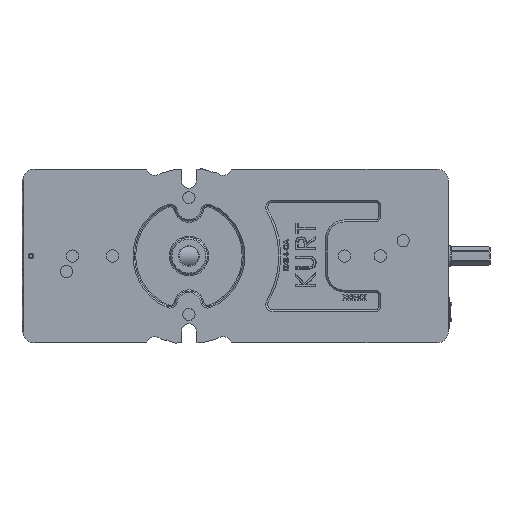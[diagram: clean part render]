
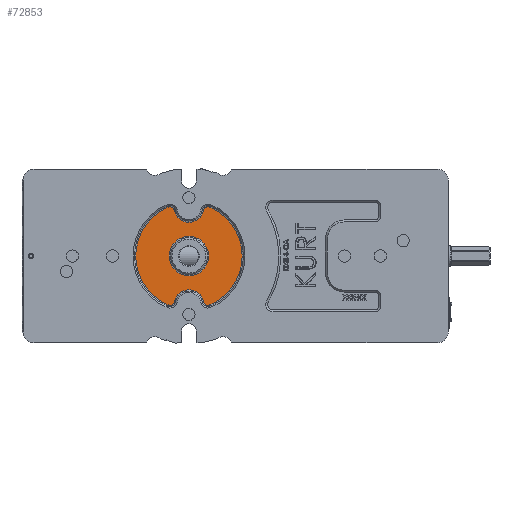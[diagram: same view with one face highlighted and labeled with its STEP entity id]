
A CAD part, front view. The second image highlights one B-rep face of the part: STEP entity #72853.
In plain terms, the highlighted planar face has unit normal (0, -1, 0).
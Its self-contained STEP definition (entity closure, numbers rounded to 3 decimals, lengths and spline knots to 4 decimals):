
#72 = CARTESIAN_POINT ( 'NONE',  ( 0., -0.001, 0. ) ) ;
#167 = CIRCLE ( 'NONE', #29960, 1.0123 ) ;
#210 = ORIENTED_EDGE ( 'NONE', *, *, #49531, .T. ) ;
#1538 = CARTESIAN_POINT ( 'NONE',  ( -0.9798, -0.001, -2.5377 ) ) ;
#1640 = DIRECTION ( 'NONE',  ( 0., 0., -1. ) ) ;
#1891 = CIRCLE ( 'NONE', #74481, 0.2377 ) ;
#2019 = DIRECTION ( 'NONE',  ( 0., 0., -1. ) ) ;
#4314 = VERTEX_POINT ( 'NONE', #11300 ) ;
#6056 = DIRECTION ( 'NONE',  ( 0., 0., -1. ) ) ;
#6333 = CARTESIAN_POINT ( 'NONE',  ( 1.073, -0.001, 2.5187 ) ) ;
#7044 = EDGE_CURVE ( 'NONE', #4314, #31189, #167, .T. ) ;
#7831 = AXIS2_PLACEMENT_3D ( 'NONE', #77963, #104528, #2019 ) ;
#7976 = VERTEX_POINT ( 'NONE', #52351 ) ;
#8956 = DIRECTION ( 'NONE',  ( 0., 0., -1. ) ) ;
#10841 = CIRCLE ( 'NONE', #28434, 1.0123 ) ;
#11300 = CARTESIAN_POINT ( 'NONE',  ( 0., -0.001, 1.0123 ) ) ;
#12769 = AXIS2_PLACEMENT_3D ( 'NONE', #52651, #27124, #86467 ) ;
#13470 = DIRECTION ( 'NONE',  ( 0., 0., -1. ) ) ;
#13978 = DIRECTION ( 'NONE',  ( 0., 0., -1. ) ) ;
#15725 = CIRCLE ( 'NONE', #19268, 0.2377 ) ;
#16050 = DIRECTION ( 'NONE',  ( 0., -1., 0. ) ) ;
#17403 = VERTEX_POINT ( 'NONE', #6333 ) ;
#17421 = ORIENTED_EDGE ( 'NONE', *, *, #78344, .T. ) ;
#17874 = DIRECTION ( 'NONE',  ( 0., 0., -1. ) ) ;
#18256 = CARTESIAN_POINT ( 'NONE',  ( 0., -0.001, -2.5 ) ) ;
#19268 = AXIS2_PLACEMENT_3D ( 'NONE', #26186, #60045, #17874 ) ;
#19642 = CARTESIAN_POINT ( 'NONE',  ( 0., -0.001, 2.5 ) ) ;
#21785 = CARTESIAN_POINT ( 'NONE',  ( 0., -0.001, 0. ) ) ;
#22059 = ORIENTED_EDGE ( 'NONE', *, *, #30595, .T. ) ;
#25325 = ORIENTED_EDGE ( 'NONE', *, *, #36558, .T. ) ;
#26186 = CARTESIAN_POINT ( 'NONE',  ( -0.9798, -0.001, 2.3 ) ) ;
#26424 = CARTESIAN_POINT ( 'NONE',  ( 0., -0.001, 1.7377 ) ) ;
#27124 = DIRECTION ( 'NONE',  ( 0., 1., 0. ) ) ;
#28434 = AXIS2_PLACEMENT_3D ( 'NONE', #72, #84894, #8956 ) ;
#29960 = AXIS2_PLACEMENT_3D ( 'NONE', #100687, #90734, #74107 ) ;
#30144 = CARTESIAN_POINT ( 'NONE',  ( 0., -0.001, -1.0123 ) ) ;
#30595 = EDGE_CURVE ( 'NONE', #73481, #92047, #32541, .T. ) ;
#30610 = CARTESIAN_POINT ( 'NONE',  ( 0.9798, -0.001, -2.3 ) ) ;
#31189 = VERTEX_POINT ( 'NONE', #30144 ) ;
#32541 = CIRCLE ( 'NONE', #94541, 0.2377 ) ;
#33229 = ORIENTED_EDGE ( 'NONE', *, *, #7044, .T. ) ;
#34255 = EDGE_CURVE ( 'NONE', #84288, #17403, #40104, .T. ) ;
#35883 = FACE_BOUND ( 'NONE', #49981, .T. ) ;
#36255 = ORIENTED_EDGE ( 'NONE', *, *, #87829, .T. ) ;
#36558 = EDGE_CURVE ( 'NONE', #80078, #45447, #45491, .T. ) ;
#38566 = AXIS2_PLACEMENT_3D ( 'NONE', #93649, #59342, #93118 ) ;
#38831 = DIRECTION ( 'NONE',  ( 0., 0., -1. ) ) ;
#38847 = CARTESIAN_POINT ( 'NONE',  ( -0.7469, -0.001, -2.3475 ) ) ;
#40080 = ORIENTED_EDGE ( 'NONE', *, *, #73316, .T. ) ;
#40104 = CIRCLE ( 'NONE', #54331, 2.7377 ) ;
#40980 = CARTESIAN_POINT ( 'NONE',  ( -0.9798, -0.001, -2.3 ) ) ;
#42819 = CIRCLE ( 'NONE', #12769, 0.7623 ) ;
#44171 = ORIENTED_EDGE ( 'NONE', *, *, #57386, .T. ) ;
#44530 = AXIS2_PLACEMENT_3D ( 'NONE', #19642, #54595, #54056 ) ;
#45288 = CARTESIAN_POINT ( 'NONE',  ( 0., -0.001, 0. ) ) ;
#45447 = VERTEX_POINT ( 'NONE', #87137 ) ;
#45491 = CIRCLE ( 'NONE', #86290, 0.7623 ) ;
#46376 = FACE_OUTER_BOUND ( 'NONE', #104132, .T. ) ;
#47341 = VERTEX_POINT ( 'NONE', #82892 ) ;
#48015 = VERTEX_POINT ( 'NONE', #26424 ) ;
#49531 = EDGE_CURVE ( 'NONE', #48015, #7976, #97575, .T. ) ;
#49981 = EDGE_LOOP ( 'NONE', ( #17421, #33229 ) ) ;
#52351 = CARTESIAN_POINT ( 'NONE',  ( -0.7469, -0.001, 2.3475 ) ) ;
#52651 = CARTESIAN_POINT ( 'NONE',  ( 0., -0.001, 2.5 ) ) ;
#53080 = PLANE ( 'NONE',  #74082 ) ;
#54055 = CARTESIAN_POINT ( 'NONE',  ( -0.9798, -0.001, -2.3 ) ) ;
#54056 = DIRECTION ( 'NONE',  ( 0., 0., -1. ) ) ;
#54331 = AXIS2_PLACEMENT_3D ( 'NONE', #63188, #81975, #6056 ) ;
#54595 = DIRECTION ( 'NONE',  ( 0., 1., 0. ) ) ;
#55640 = DIRECTION ( 'NONE',  ( 0., -1., 0. ) ) ;
#56331 = CIRCLE ( 'NONE', #38566, 0.2377 ) ;
#57386 = EDGE_CURVE ( 'NONE', #107125, #48015, #42819, .T. ) ;
#59131 = EDGE_CURVE ( 'NONE', #45447, #47341, #101247, .T. ) ;
#59342 = DIRECTION ( 'NONE',  ( 0., -1., 0. ) ) ;
#60045 = DIRECTION ( 'NONE',  ( 0., -1., 0. ) ) ;
#61965 = DIRECTION ( 'NONE',  ( 0., 0., -1. ) ) ;
#62193 = ORIENTED_EDGE ( 'NONE', *, *, #59131, .T. ) ;
#62443 = VERTEX_POINT ( 'NONE', #73559 ) ;
#63188 = CARTESIAN_POINT ( 'NONE',  ( 0., -0.001, 0. ) ) ;
#65555 = DIRECTION ( 'NONE',  ( 0., -1., 0. ) ) ;
#65892 = AXIS2_PLACEMENT_3D ( 'NONE', #30610, #65555, #13978 ) ;
#66533 = DIRECTION ( 'NONE',  ( 0., 0., -1. ) ) ;
#69309 = DIRECTION ( 'NONE',  ( 0., 1., 0. ) ) ;
#72853 = ADVANCED_FACE ( 'NONE', ( #46376, #35883 ), #53080, .T. ) ;
#73269 = CIRCLE ( 'NONE', #7831, 0.2377 ) ;
#73316 = EDGE_CURVE ( 'NONE', #7976, #62443, #15725, .T. ) ;
#73481 = VERTEX_POINT ( 'NONE', #89893 ) ;
#73559 = CARTESIAN_POINT ( 'NONE',  ( -1.073, -0.001, 2.5187 ) ) ;
#74082 = AXIS2_PLACEMENT_3D ( 'NONE', #45288, #79131, #61965 ) ;
#74107 = DIRECTION ( 'NONE',  ( 0., 0., -1. ) ) ;
#74244 = EDGE_CURVE ( 'NONE', #47341, #84288, #56331, .T. ) ;
#74481 = AXIS2_PLACEMENT_3D ( 'NONE', #40980, #16050, #66533 ) ;
#76371 = CIRCLE ( 'NONE', #90501, 2.7377 ) ;
#76478 = ORIENTED_EDGE ( 'NONE', *, *, #34255, .T. ) ;
#77159 = ORIENTED_EDGE ( 'NONE', *, *, #74244, .T. ) ;
#77963 = CARTESIAN_POINT ( 'NONE',  ( 0.9798, -0.001, 2.3 ) ) ;
#78344 = EDGE_CURVE ( 'NONE', #31189, #4314, #10841, .T. ) ;
#79131 = DIRECTION ( 'NONE',  ( 0., -1., 0. ) ) ;
#79525 = DIRECTION ( 'NONE',  ( 0., -1., 0. ) ) ;
#80078 = VERTEX_POINT ( 'NONE', #38847 ) ;
#81975 = DIRECTION ( 'NONE',  ( 0., -1., 0. ) ) ;
#82892 = CARTESIAN_POINT ( 'NONE',  ( 0.9798, -0.001, -2.5377 ) ) ;
#83994 = CARTESIAN_POINT ( 'NONE',  ( 1.073, -0.001, -2.5187 ) ) ;
#84288 = VERTEX_POINT ( 'NONE', #83994 ) ;
#84894 = DIRECTION ( 'NONE',  ( 0., 1., 0. ) ) ;
#85565 = CARTESIAN_POINT ( 'NONE',  ( 0.7469, -0.001, 2.3475 ) ) ;
#86290 = AXIS2_PLACEMENT_3D ( 'NONE', #18256, #69309, #1640 ) ;
#86467 = DIRECTION ( 'NONE',  ( 0., 0., -1. ) ) ;
#87137 = CARTESIAN_POINT ( 'NONE',  ( 0.7469, -0.001, -2.3475 ) ) ;
#87165 = EDGE_CURVE ( 'NONE', #92047, #80078, #1891, .T. ) ;
#87829 = EDGE_CURVE ( 'NONE', #62443, #73481, #76371, .T. ) ;
#89893 = CARTESIAN_POINT ( 'NONE',  ( -1.073, -0.001, -2.5187 ) ) ;
#90501 = AXIS2_PLACEMENT_3D ( 'NONE', #21785, #55640, #13470 ) ;
#90734 = DIRECTION ( 'NONE',  ( 0., 1., 0. ) ) ;
#92047 = VERTEX_POINT ( 'NONE', #1538 ) ;
#93118 = DIRECTION ( 'NONE',  ( 0., 0., -1. ) ) ;
#93649 = CARTESIAN_POINT ( 'NONE',  ( 0.9798, -0.001, -2.3 ) ) ;
#93740 = EDGE_CURVE ( 'NONE', #17403, #107125, #73269, .T. ) ;
#94541 = AXIS2_PLACEMENT_3D ( 'NONE', #54055, #79525, #38831 ) ;
#97575 = CIRCLE ( 'NONE', #44530, 0.7623 ) ;
#100687 = CARTESIAN_POINT ( 'NONE',  ( 0., -0.001, 0. ) ) ;
#101247 = CIRCLE ( 'NONE', #65892, 0.2377 ) ;
#103654 = ORIENTED_EDGE ( 'NONE', *, *, #87165, .T. ) ;
#104132 = EDGE_LOOP ( 'NONE', ( #76478, #105643, #44171, #210, #40080, #36255, #22059, #103654, #25325, #62193, #77159 ) ) ;
#104528 = DIRECTION ( 'NONE',  ( 0., -1., 0. ) ) ;
#105643 = ORIENTED_EDGE ( 'NONE', *, *, #93740, .T. ) ;
#107125 = VERTEX_POINT ( 'NONE', #85565 ) ;
